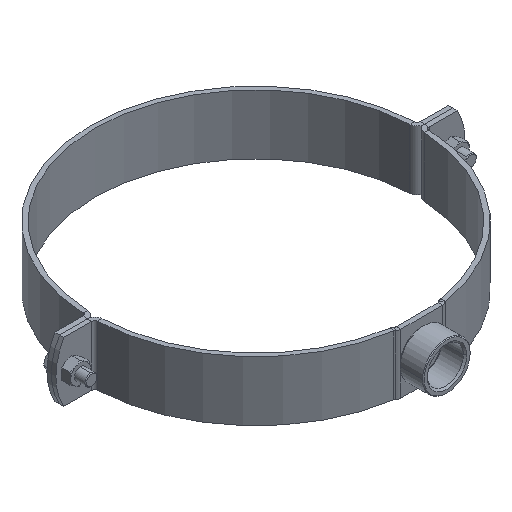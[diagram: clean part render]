
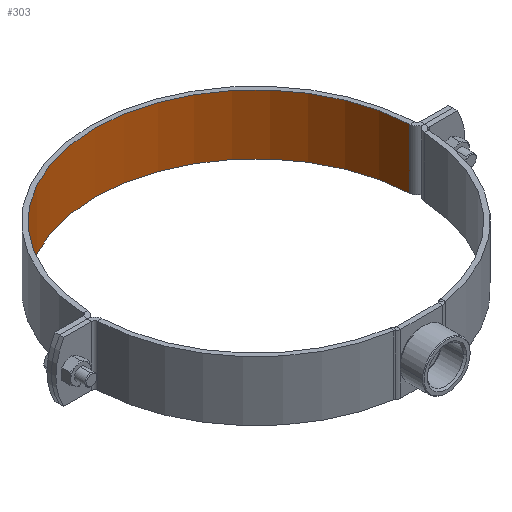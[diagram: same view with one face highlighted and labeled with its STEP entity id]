
A CAD part, isometric view. The second image highlights one B-rep face of the part: STEP entity #303.
In plain terms, the highlighted cylindrical face has radius 108 mm (diameter 216 mm), a partial arc.
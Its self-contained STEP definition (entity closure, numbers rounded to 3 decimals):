
#303 = ADVANCED_FACE ( 'NONE', ( #2615 ), #4237, .F. ) ;
#473 = EDGE_CURVE ( 'NONE', #1268, #4403, #3293, .T. ) ;
#586 = CARTESIAN_POINT ( 'NONE',  ( 0., 0., 20. ) ) ;
#881 = AXIS2_PLACEMENT_3D ( 'NONE', #586, #2207, #3824 ) ;
#986 = VERTEX_POINT ( 'NONE', #4850 ) ;
#1030 = EDGE_CURVE ( 'NONE', #4009, #986, #4865, .T. ) ;
#1182 = CARTESIAN_POINT ( 'NONE',  ( 0., 0., -20. ) ) ;
#1266 = DIRECTION ( 'NONE',  ( 0., 0., -1. ) ) ;
#1268 = VERTEX_POINT ( 'NONE', #4733 ) ;
#1274 = VECTOR ( 'NONE', #1266, 1000. ) ;
#1299 = CARTESIAN_POINT ( 'NONE',  ( 107.894, -4.779, 20. ) ) ;
#1395 = CARTESIAN_POINT ( 'NONE',  ( 107.894, -4.779, 20. ) ) ;
#1425 = CIRCLE ( 'NONE', #2098, 108. ) ;
#1756 = CARTESIAN_POINT ( 'NONE',  ( 0., 0., 20. ) ) ;
#1950 = VECTOR ( 'NONE', #3024, 1000. ) ;
#2002 = EDGE_CURVE ( 'NONE', #4403, #986, #3005, .T. ) ;
#2098 = AXIS2_PLACEMENT_3D ( 'NONE', #1756, #3385, #4844 ) ;
#2207 = DIRECTION ( 'NONE',  ( 0., 0., -1. ) ) ;
#2615 = FACE_OUTER_BOUND ( 'NONE', #3219, .T. ) ;
#2810 = DIRECTION ( 'NONE',  ( 0., 0., 1. ) ) ;
#2811 = CARTESIAN_POINT ( 'NONE',  ( -107.894, -4.779, -20. ) ) ;
#3005 = CIRCLE ( 'NONE', #3006, 108. ) ;
#3006 = AXIS2_PLACEMENT_3D ( 'NONE', #1182, #2810, #4416 ) ;
#3024 = DIRECTION ( 'NONE',  ( 0., 0., -1. ) ) ;
#3219 = EDGE_LOOP ( 'NONE', ( #3872, #3854, #3844, #3830 ) ) ;
#3293 = LINE ( 'NONE', #4778, #1274 ) ;
#3385 = DIRECTION ( 'NONE',  ( 0., 0., 1. ) ) ;
#3824 = DIRECTION ( 'NONE',  ( -1., 0., 0. ) ) ;
#3830 = ORIENTED_EDGE ( 'NONE', *, *, #1030, .T. ) ;
#3844 = ORIENTED_EDGE ( 'NONE', *, *, #4972, .T. ) ;
#3854 = ORIENTED_EDGE ( 'NONE', *, *, #473, .F. ) ;
#3872 = ORIENTED_EDGE ( 'NONE', *, *, #2002, .F. ) ;
#4009 = VERTEX_POINT ( 'NONE', #1299 ) ;
#4237 = CYLINDRICAL_SURFACE ( 'NONE', #881, 108. ) ;
#4403 = VERTEX_POINT ( 'NONE', #2811 ) ;
#4416 = DIRECTION ( 'NONE',  ( 1., 0., 0. ) ) ;
#4733 = CARTESIAN_POINT ( 'NONE',  ( -107.894, -4.779, 20. ) ) ;
#4778 = CARTESIAN_POINT ( 'NONE',  ( -107.894, -4.779, 20. ) ) ;
#4844 = DIRECTION ( 'NONE',  ( 1., 0., 0. ) ) ;
#4850 = CARTESIAN_POINT ( 'NONE',  ( 107.894, -4.779, -20. ) ) ;
#4865 = LINE ( 'NONE', #1395, #1950 ) ;
#4972 = EDGE_CURVE ( 'NONE', #1268, #4009, #1425, .T. ) ;
